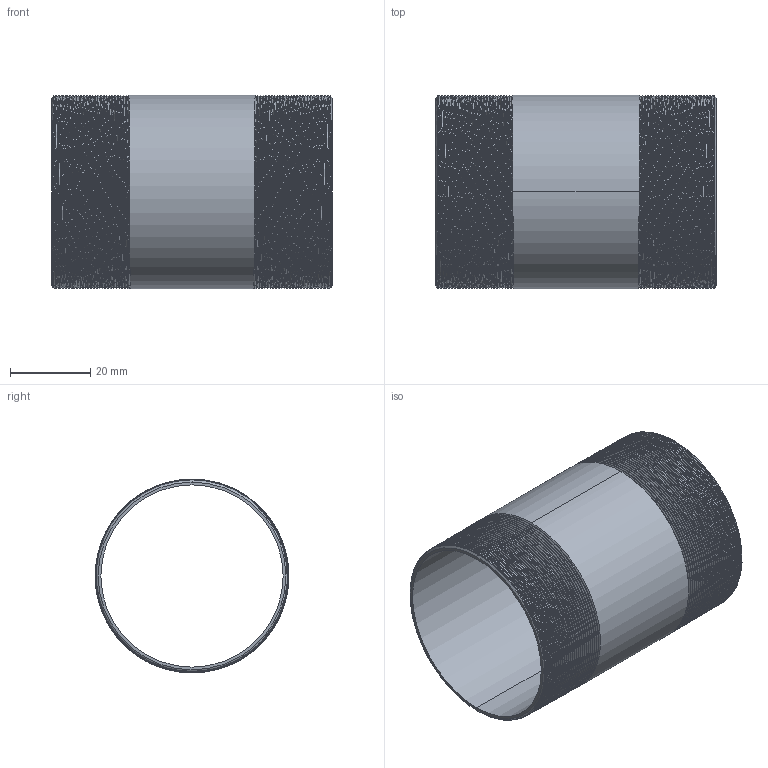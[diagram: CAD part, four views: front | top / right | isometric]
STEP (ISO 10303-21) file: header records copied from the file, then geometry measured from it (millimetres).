
FILE_DESCRIPTION (( 'STEP AP203' ), '1' );
FILE_NAME ('3D_R210_1 1-2x70_17148590.STEP', '2024-08-16T10:05:11', ( '' ), ( '' ), 'SwSTEP 2.0', 'SolidWorks 2024', '' );
FILE_SCHEMA (( 'CONFIG_CONTROL_DESIGN' ));
Length unit declared in the file: millimetre
Products named in the file (1): 3D_R210_1 1-2x70_17148590
Bounding box: 70 x 48.26 x 48.3 mm (x, y, z)
Volume: 13234.1 mm3; surface area: 23574.6 mm2
Topology: 1 solids, 1 shells, 128 faces, 370 edges, 244 vertices
Faces by surface type: cone 114, bspline 6, cylinder 4, plane 4
Entity records: 21897 total; most frequent: CARTESIAN_POINT 18931, ORIENTED_EDGE 740, DIRECTION 398, EDGE_CURVE 370, VERTEX_POINT 244, B_SPLINE_CURVE_WITH_KNOTS 224, AXIS2_PLACEMENT_3D 137, EDGE_LOOP 130
